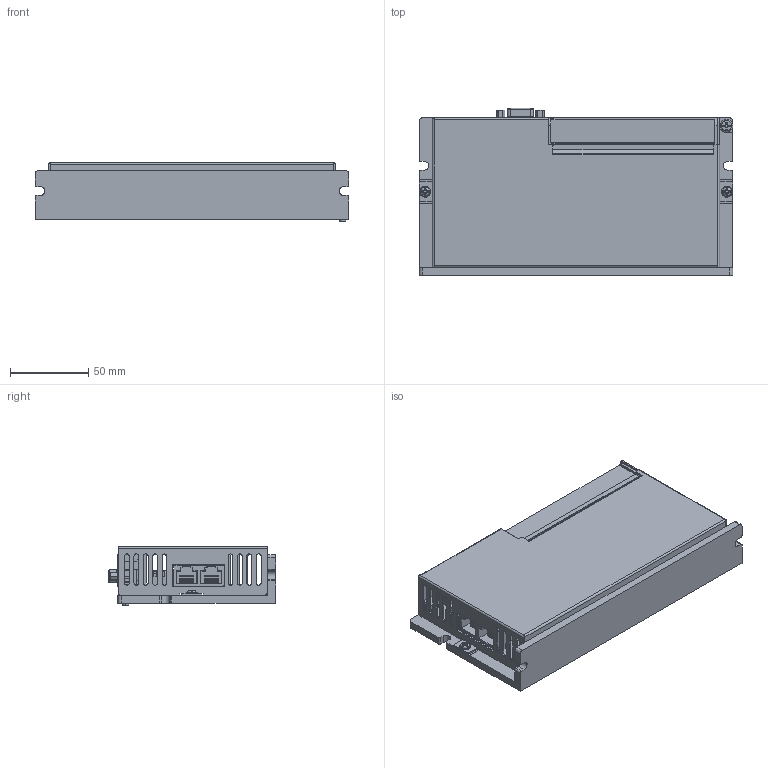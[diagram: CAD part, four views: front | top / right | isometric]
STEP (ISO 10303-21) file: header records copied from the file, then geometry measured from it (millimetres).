
FILE_DESCRIPTION((''),'2;1');
FILE_NAME('FD145-ASSEMBLY_DRAWING_1V2_ASM','2024-11-15T10:43:52',('唐'),(''),'CREO PARAMETRIC BY PTC INC, 2016510','CREO PARAMETRIC BY PTC INC, 2016510','');
FILE_SCHEMA(('CONFIG_CONTROL_DESIGN'));
Products named in the file (12): FD145-HT_95_1; SCREW_JIEZI_M3X4_65_1; SCREW_M4X8_66_1; BRTB130-00-XX-C_111_1; BOMA_4_105_1; 9ZHEN-DAOLISHI_2_100_1; CON_NETWORK_PORT_100_1; F8CR-THR-3_5-14P-A-L28_100_1; C165948_TYPE-C_100_1; FD145-EB-HS; 000-FD145_ASM_176_ASM_1_ASM; FD145-ASSEMBLY_DRAWING_1V2_ASM
Assembly tree (12 placements, depth 3):
  FD145-ASSEMBLY_DRAWING_1V2_ASM
    000-FD145_ASM_176_ASM_1_ASM
      FD145-HT_95_1
      SCREW_JIEZI_M3X4_65_1  x2
      SCREW_M4X8_66_1
      BRTB130-00-XX-C_111_1
      BOMA_4_105_1
      9ZHEN-DAOLISHI_2_100_1
      CON_NETWORK_PORT_100_1
      F8CR-THR-3_5-14P-A-L28_100_1
      C165948_TYPE-C_100_1
      FD145-EB-HS
Bounding box: 200 x 106.5 x 37.2 mm (x, y, z)
Volume: 191204.7 mm3; surface area: 131526.9 mm2
Topology: 11 solids, 32 shells, 2499 faces, 6580 edges, 4263 vertices
Faces by surface type: plane 1705, cylinder 638, torus 82, bspline 36, extrusion 28, cone 10
Entity records: 77158 total; most frequent: CARTESIAN_POINT 16851, ORIENTED_EDGE 12752, DIRECTION 11908, EDGE_CURVE 6376, VECTOR 4844, LINE 4816, VERTEX_POINT 4133, AXIS2_PLACEMENT_3D 3532
